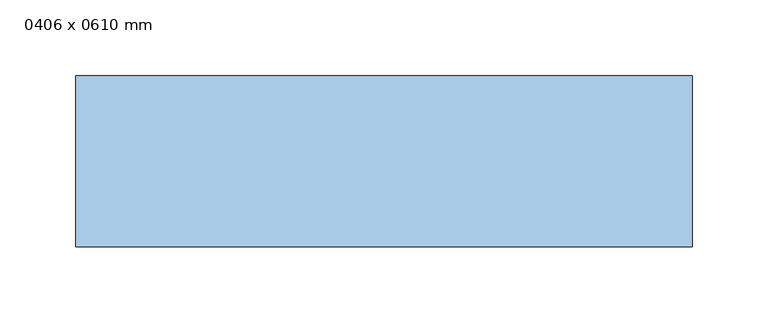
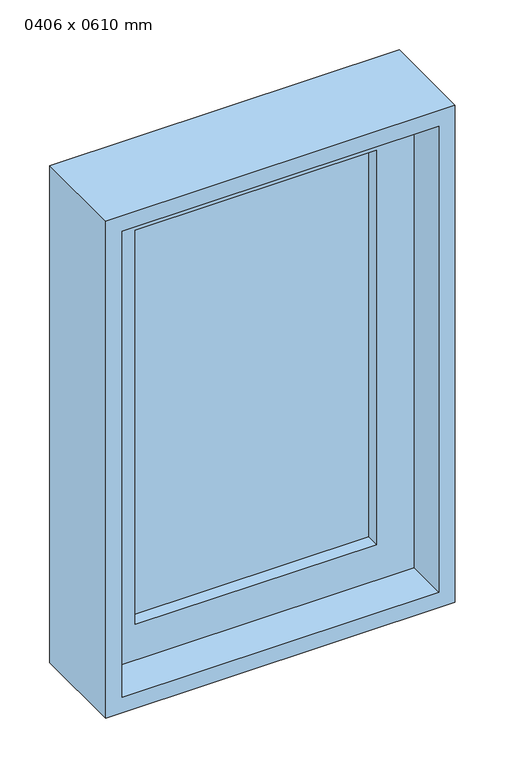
"""IFC4 building model written with IfcOpenShell, lengths in millimetres: window geometry, M_固定 : 0406 x 0610 mm."""

from ifc_helpers import new_model, si_unit, frame, origin, place, context, project, spatial, polyline, outline, extrude, source, transform, mapped, element, save


def window_0406_x_0610_mm_7f15c608(model_context):
    return source(origin(), model_context, "Body", "SweptSolid", [
        extrude(outline(polyline([(-140.0, 127.5), (140.0, 127.5), (140.0, 115.5), (-140.0, 115.5), (-140.0, 127.5)])), frame((0.0, 0.0, 978.0), z_axis=(0.0, 0.0, 1.0), x_axis=(1.0, 0.0, 0.0)), (0.0, 0.0, 1.0), 484.0),
        extrude(outline(polyline([(1506.0, -184.0), (934.0, -184.0), (934.0, 184.0), (1506.0, 184.0), (1506.0, -184.0)]), holes=[polyline([(1462.0, -140.0), (1462.0, 140.0), (978.0, 140.0), (978.0, -140.0), (1462.0, -140.0)])]), frame((0.0, 99.5, 0.0), z_axis=(0.0, 1.0, 0.0), x_axis=(0.0, 0.0, 1.0)), (0.0, 0.0, 1.0), 44.0),
        extrude(outline(polyline([(1525.0, -203.0), (915.0, -203.0), (915.0, 203.0), (1525.0, 203.0), (1525.0, -203.0)]), holes=[polyline([(1506.0, -184.0), (1506.0, 184.0), (934.0, 184.0), (934.0, -184.0), (1506.0, -184.0)])]), frame((0.0, 50.0, 0.0), z_axis=(0.0, 1.0, 0.0), x_axis=(0.0, 0.0, 1.0)), (0.0, 0.0, 1.0), 112.5),
    ])


if __name__ == "__main__":
    model = new_model("IFC4")
    model_context = context("Model", 3, world=origin())
    ifc_project = project(units=[si_unit("LENGTHUNIT", "METRE", prefix="MILLI")], contexts=[model_context])
    site = spatial("IfcSite", under=ifc_project)
    building = spatial("IfcBuilding", under=site)
    placement = place(None, origin())
    window_0406_x_0610_mm_shape = window_0406_x_0610_mm_7f15c608(model_context)
    element("IfcWindow", 1, ObjectType="M_固定 : 0406 x 0610 mm", at=placement, inside=building, context=model_context, shape_type="MappedRepresentation", body=[
        mapped(window_0406_x_0610_mm_shape, transform((0.0, 0.0, 0.0), x_axis=(1.0, 0.0, 0.0), y_axis=(0.0, 1.0, 0.0), z_axis=(0.0, 0.0, 1.0))),
    ])
    save(model, "model.ifc")
